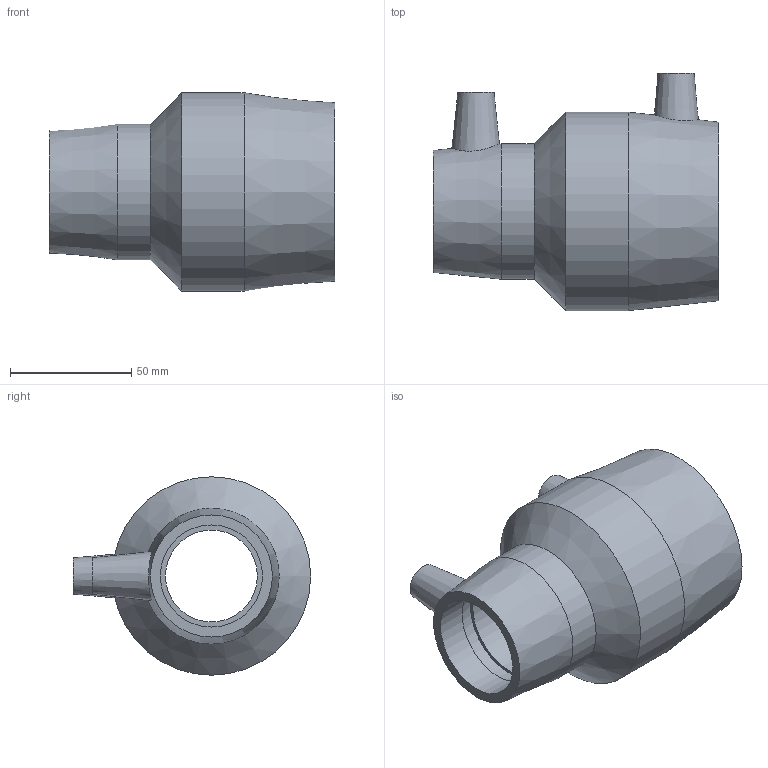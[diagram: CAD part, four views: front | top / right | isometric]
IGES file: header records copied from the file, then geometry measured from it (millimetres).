
Global section: file name: 5911BB03020013.ipt; native system: Autodesk Inventor 2019; preprocessor: unknown; author: KIM; date: 20210830.101025; units: inch
Bounding box: 117.86 x 97.79 x 81.79 mm (x, y, z)
Volume: 205078.9 mm3; surface area: 53278.5 mm2
Topology: 1 solids, 1 shells, 31 faces, 72 edges, 51 vertices
Faces by surface type: plane 12, revolution 10, cone 5, cylinder 4
Full cylindrical faces by diameter (mm): 4 x2, 55.88 x1, 81.788 x1
